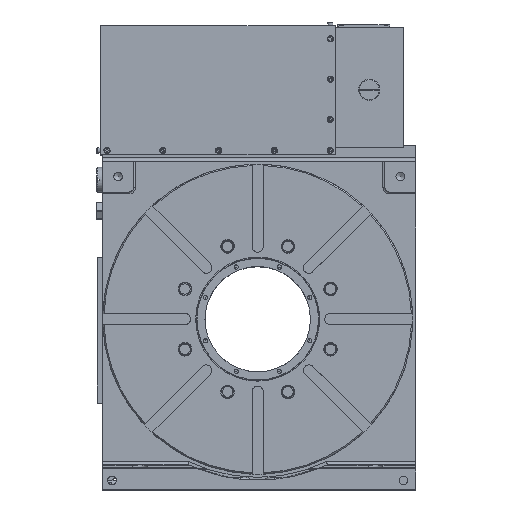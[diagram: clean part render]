
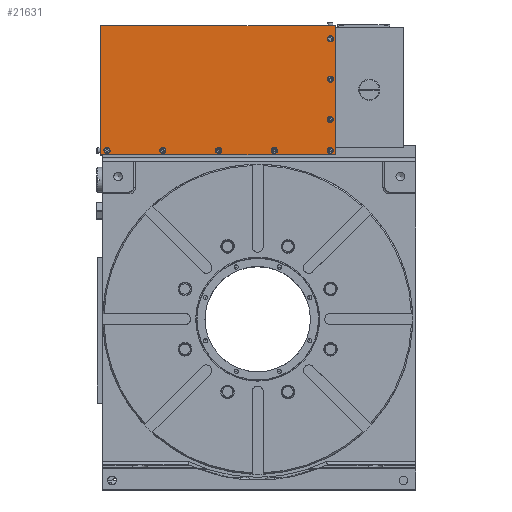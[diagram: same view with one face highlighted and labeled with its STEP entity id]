
A CAD part, top view. The second image highlights one B-rep face of the part: STEP entity #21631.
In plain terms, the highlighted planar face has unit normal (0, 0, 1).
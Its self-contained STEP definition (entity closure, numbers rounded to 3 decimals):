
#210 = VERTEX_POINT ( 'NONE', #15408 ) ;
#243 = DIRECTION ( 'NONE',  ( 1., 0., 0. ) ) ;
#970 = ORIENTED_EDGE ( 'NONE', *, *, #13378, .F. ) ;
#1304 = VERTEX_POINT ( 'NONE', #9949 ) ;
#1366 = ORIENTED_EDGE ( 'NONE', *, *, #23436, .F. ) ;
#1399 = VERTEX_POINT ( 'NONE', #21566 ) ;
#2164 = DIRECTION ( 'NONE',  ( 0., 1., 0. ) ) ;
#2175 = FACE_BOUND ( 'NONE', #3886, .T. ) ;
#2308 = PLANE ( 'NONE',  #23992 ) ;
#2365 = CARTESIAN_POINT ( 'NONE',  ( -253.3, 265., -51.2 ) ) ;
#2366 = VERTEX_POINT ( 'NONE', #24246 ) ;
#2393 = DIRECTION ( 'NONE',  ( 1., 0., 0. ) ) ;
#2879 = CIRCLE ( 'NONE', #10321, 3.25 ) ;
#3099 = VECTOR ( 'NONE', #12113, 1000. ) ;
#3271 = VECTOR ( 'NONE', #21394, 1000. ) ;
#3768 = CARTESIAN_POINT ( 'NONE',  ( -153., 272., -51.2 ) ) ;
#3886 = EDGE_LOOP ( 'NONE', ( #14013 ) ) ;
#4657 = VERTEX_POINT ( 'NONE', #4781 ) ;
#4772 = AXIS2_PLACEMENT_3D ( 'NONE', #8960, #10666, #23034 ) ;
#4781 = CARTESIAN_POINT ( 'NONE',  ( 30.25, 272., -51.2 ) ) ;
#4889 = CARTESIAN_POINT ( 'NONE',  ( -243., 272., -51.2 ) ) ;
#5116 = EDGE_LOOP ( 'NONE', ( #1366 ) ) ;
#5388 = ORIENTED_EDGE ( 'NONE', *, *, #15719, .T. ) ;
#5402 = CARTESIAN_POINT ( 'NONE',  ( -253.3, 473.3, -51.2 ) ) ;
#5415 = ORIENTED_EDGE ( 'NONE', *, *, #19887, .T. ) ;
#5568 = EDGE_LOOP ( 'NONE', ( #15762 ) ) ;
#5683 = DIRECTION ( 'NONE',  ( 1., 0., 0. ) ) ;
#5807 = ORIENTED_EDGE ( 'NONE', *, *, #13810, .F. ) ;
#5901 = LINE ( 'NONE', #5402, #3271 ) ;
#6071 = CARTESIAN_POINT ( 'NONE',  ( 125., 473.3, -51.2 ) ) ;
#6210 = EDGE_CURVE ( 'NONE', #2366, #2366, #17511, .T. ) ;
#6534 = CIRCLE ( 'NONE', #14459, 3.25 ) ;
#6591 = CARTESIAN_POINT ( 'NONE',  ( -253.3, 265., -51.2 ) ) ;
#6646 = CARTESIAN_POINT ( 'NONE',  ( -253.3, 473.3, -51.2 ) ) ;
#6856 = ORIENTED_EDGE ( 'NONE', *, *, #24984, .F. ) ;
#7085 = DIRECTION ( 'NONE',  ( 1., 0., 0. ) ) ;
#8141 = FACE_BOUND ( 'NONE', #5568, .T. ) ;
#8276 = EDGE_CURVE ( 'NONE', #10605, #20965, #5901, .T. ) ;
#8515 = LINE ( 'NONE', #6071, #15282 ) ;
#8960 = CARTESIAN_POINT ( 'NONE',  ( 117., 322., -51.2 ) ) ;
#9530 = DIRECTION ( 'NONE',  ( 0., 0., 1. ) ) ;
#9713 = EDGE_CURVE ( 'NONE', #22648, #22648, #10555, .T. ) ;
#9949 = CARTESIAN_POINT ( 'NONE',  ( -253.3, 265., -51.2 ) ) ;
#10220 = VERTEX_POINT ( 'NONE', #12054 ) ;
#10321 = AXIS2_PLACEMENT_3D ( 'NONE', #11741, #9530, #17367 ) ;
#10480 = VERTEX_POINT ( 'NONE', #14167 ) ;
#10483 = FACE_BOUND ( 'NONE', #5116, .T. ) ;
#10555 = CIRCLE ( 'NONE', #4772, 2.751 ) ;
#10595 = CIRCLE ( 'NONE', #13523, 2.751 ) ;
#10605 = VERTEX_POINT ( 'NONE', #11847 ) ;
#10666 = DIRECTION ( 'NONE',  ( 0., 0., 1. ) ) ;
#11222 = DIRECTION ( 'NONE',  ( 0., 0., 1. ) ) ;
#11258 = ORIENTED_EDGE ( 'NONE', *, *, #24577, .F. ) ;
#11718 = EDGE_CURVE ( 'NONE', #1399, #1399, #10595, .T. ) ;
#11741 = CARTESIAN_POINT ( 'NONE',  ( -63., 272., -51.2 ) ) ;
#11847 = CARTESIAN_POINT ( 'NONE',  ( 125., 473.3, -51.2 ) ) ;
#12054 = CARTESIAN_POINT ( 'NONE',  ( 119.751, 387., -51.2 ) ) ;
#12057 = FACE_BOUND ( 'NONE', #12660, .T. ) ;
#12113 = DIRECTION ( 'NONE',  ( 1., 0., 0. ) ) ;
#12266 = CARTESIAN_POINT ( 'NONE',  ( 27., 272., -51.2 ) ) ;
#12660 = EDGE_LOOP ( 'NONE', ( #13483 ) ) ;
#12949 = DIRECTION ( 'NONE',  ( 0., 0., 1. ) ) ;
#13248 = EDGE_LOOP ( 'NONE', ( #5388, #5415, #25572, #20851 ) ) ;
#13263 = VERTEX_POINT ( 'NONE', #23153 ) ;
#13378 = EDGE_CURVE ( 'NONE', #22087, #22087, #17050, .T. ) ;
#13483 = ORIENTED_EDGE ( 'NONE', *, *, #9713, .F. ) ;
#13523 = AXIS2_PLACEMENT_3D ( 'NONE', #22857, #12949, #7085 ) ;
#13810 = EDGE_CURVE ( 'NONE', #4657, #4657, #19533, .T. ) ;
#14013 = ORIENTED_EDGE ( 'NONE', *, *, #11718, .F. ) ;
#14167 = CARTESIAN_POINT ( 'NONE',  ( -59.75, 272., -51.2 ) ) ;
#14292 = FACE_BOUND ( 'NONE', #19936, .T. ) ;
#14459 = AXIS2_PLACEMENT_3D ( 'NONE', #4889, #11222, #22588 ) ;
#14985 = DIRECTION ( 'NONE',  ( 0., -1., 0. ) ) ;
#15218 = EDGE_LOOP ( 'NONE', ( #5807 ) ) ;
#15282 = VECTOR ( 'NONE', #2164, 1000. ) ;
#15408 = CARTESIAN_POINT ( 'NONE',  ( 125., 265., -51.2 ) ) ;
#15614 = DIRECTION ( 'NONE',  ( 0., 0., 1. ) ) ;
#15719 = EDGE_CURVE ( 'NONE', #20965, #1304, #22670, .T. ) ;
#15762 = ORIENTED_EDGE ( 'NONE', *, *, #6210, .F. ) ;
#15783 = CARTESIAN_POINT ( 'NONE',  ( -253.3, 473.3, -51.2 ) ) ;
#15913 = DIRECTION ( 'NONE',  ( 1., 0., 0. ) ) ;
#16180 = AXIS2_PLACEMENT_3D ( 'NONE', #12266, #21768, #15913 ) ;
#16575 = AXIS2_PLACEMENT_3D ( 'NONE', #25476, #23391, #5683 ) ;
#17050 = CIRCLE ( 'NONE', #17832, 3.25 ) ;
#17367 = DIRECTION ( 'NONE',  ( 1., 0., 0. ) ) ;
#17511 = CIRCLE ( 'NONE', #23342, 3.25 ) ;
#17808 = CARTESIAN_POINT ( 'NONE',  ( 120.25, 272., -51.2 ) ) ;
#17832 = AXIS2_PLACEMENT_3D ( 'NONE', #18171, #22324, #2393 ) ;
#18074 = FACE_BOUND ( 'NONE', #25415, .T. ) ;
#18171 = CARTESIAN_POINT ( 'NONE',  ( 117., 272., -51.2 ) ) ;
#18947 = EDGE_CURVE ( 'NONE', #210, #10605, #8515, .T. ) ;
#19533 = CIRCLE ( 'NONE', #16180, 3.25 ) ;
#19887 = EDGE_CURVE ( 'NONE', #1304, #210, #20207, .T. ) ;
#19936 = EDGE_LOOP ( 'NONE', ( #11258 ) ) ;
#20029 = DIRECTION ( 'NONE',  ( 0., 0., 1. ) ) ;
#20150 = FACE_BOUND ( 'NONE', #20607, .T. ) ;
#20207 = LINE ( 'NONE', #2365, #3099 ) ;
#20527 = FACE_BOUND ( 'NONE', #15218, .T. ) ;
#20607 = EDGE_LOOP ( 'NONE', ( #6856 ) ) ;
#20851 = ORIENTED_EDGE ( 'NONE', *, *, #8276, .T. ) ;
#20965 = VERTEX_POINT ( 'NONE', #15783 ) ;
#21320 = DIRECTION ( 'NONE',  ( 1., 0., 0. ) ) ;
#21394 = DIRECTION ( 'NONE',  ( -1., 0., 0. ) ) ;
#21566 = CARTESIAN_POINT ( 'NONE',  ( 119.751, 452., -51.2 ) ) ;
#21631 = ADVANCED_FACE ( 'NONE', ( #12057, #14292, #2175, #10483, #8141, #20150, #20527, #18074, #22094 ), #2308, .T. ) ;
#21768 = DIRECTION ( 'NONE',  ( 0., 0., 1. ) ) ;
#21976 = CIRCLE ( 'NONE', #16575, 2.751 ) ;
#22087 = VERTEX_POINT ( 'NONE', #17808 ) ;
#22094 = FACE_OUTER_BOUND ( 'NONE', #13248, .T. ) ;
#22324 = DIRECTION ( 'NONE',  ( 0., 0., 1. ) ) ;
#22588 = DIRECTION ( 'NONE',  ( 1., 0., 0. ) ) ;
#22648 = VERTEX_POINT ( 'NONE', #24611 ) ;
#22670 = LINE ( 'NONE', #6646, #25015 ) ;
#22857 = CARTESIAN_POINT ( 'NONE',  ( 117., 452., -51.2 ) ) ;
#23034 = DIRECTION ( 'NONE',  ( 1., 0., 0. ) ) ;
#23153 = CARTESIAN_POINT ( 'NONE',  ( -239.75, 272., -51.2 ) ) ;
#23342 = AXIS2_PLACEMENT_3D ( 'NONE', #3768, #15614, #21320 ) ;
#23391 = DIRECTION ( 'NONE',  ( 0., 0., 1. ) ) ;
#23436 = EDGE_CURVE ( 'NONE', #13263, #13263, #6534, .T. ) ;
#23992 = AXIS2_PLACEMENT_3D ( 'NONE', #6591, #20029, #243 ) ;
#24246 = CARTESIAN_POINT ( 'NONE',  ( -149.75, 272., -51.2 ) ) ;
#24577 = EDGE_CURVE ( 'NONE', #10220, #10220, #21976, .T. ) ;
#24611 = CARTESIAN_POINT ( 'NONE',  ( 119.751, 322., -51.2 ) ) ;
#24984 = EDGE_CURVE ( 'NONE', #10480, #10480, #2879, .T. ) ;
#25015 = VECTOR ( 'NONE', #14985, 1000. ) ;
#25415 = EDGE_LOOP ( 'NONE', ( #970 ) ) ;
#25476 = CARTESIAN_POINT ( 'NONE',  ( 117., 387., -51.2 ) ) ;
#25572 = ORIENTED_EDGE ( 'NONE', *, *, #18947, .T. ) ;
